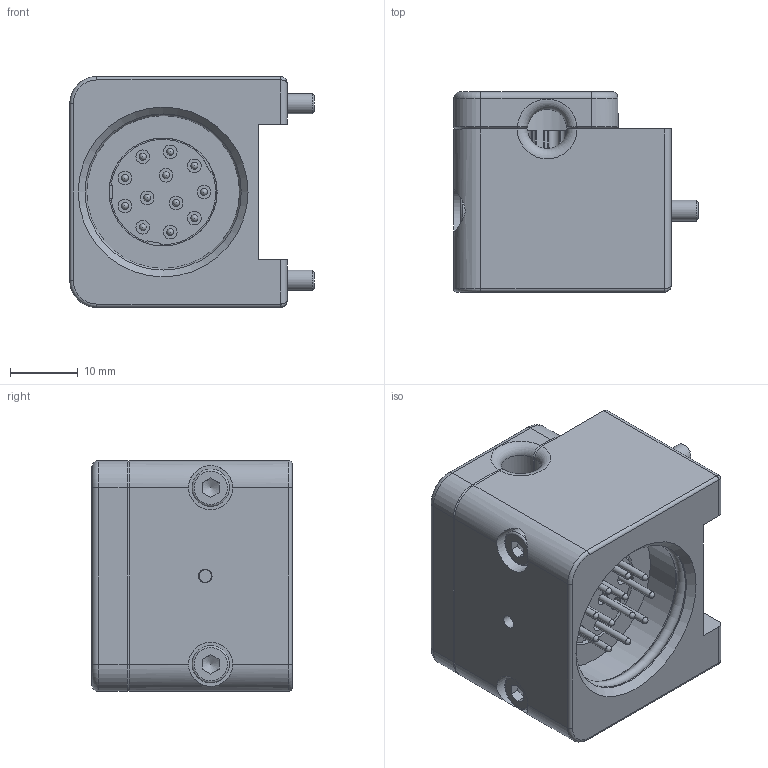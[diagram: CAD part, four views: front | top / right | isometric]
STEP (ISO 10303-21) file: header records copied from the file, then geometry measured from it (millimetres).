
FILE_DESCRIPTION(/* description */ (''),/* implementation_level */ '2;1');
FILE_NAME(/* name */ 'G-SEK100-O-1E12_.stp',/* time_stamp */ '2025-11-25T10:46:04+01:00',/* author */ ('ysplieth'),/* organization */ (''),/* preprocessor_version */ 'ST-DEVELOPER v20.1',/* originating_system */ 'Autodesk Inventor 2026',/* authorisation */ '');
FILE_SCHEMA (('AUTOMOTIVE_DESIGN { 1 0 10303 214 3 1 1 }'));
Length unit declared in the file: millimetre
Products named in the file (1): G-SEK100-O-1E12
Bounding box: 36 x 29.5 x 34 mm (x, y, z)
Volume: 22208.2 mm3; surface area: 12878.4 mm2
Topology: 2 solids, 10 shells, 420 faces, 1074 edges, 678 vertices
Faces by surface type: plane 180, cylinder 141, cone 46, torus 23, bspline 18, sphere 12
Full cylindrical faces by diameter (mm): 1 x12, 1.6 x12, 2 x16, 2.013 x4, 2.5 x4, 2.9 x4, 3 x2, 3.4 x2, 4.5 x4, 5.5 x4, 6.5 x2, 15.9 x1, 17 x1, 17.1 x1, 18 x1, 23 x2, 25.5 x2
Entity records: 14582 total; most frequent: CARTESIAN_POINT 3980, DIRECTION 2132, ORIENTED_EDGE 2098, EDGE_CURVE 1049, AXIS2_PLACEMENT_3D 807, VERTEX_POINT 678, LINE 518, VECTOR 518
